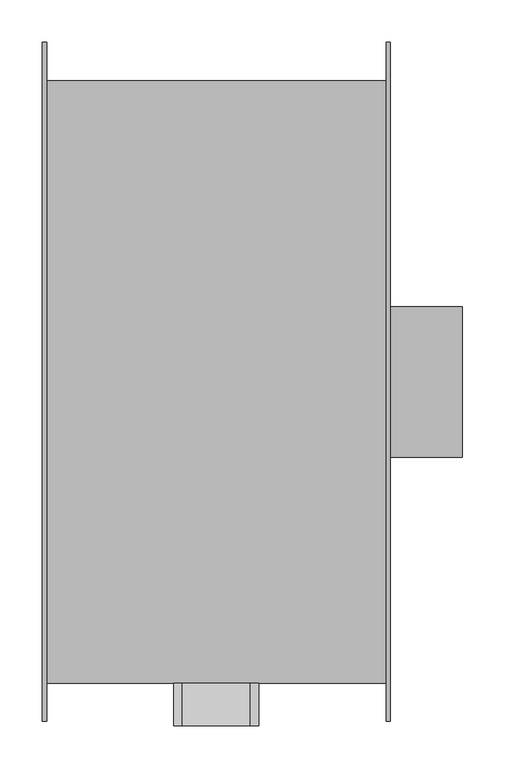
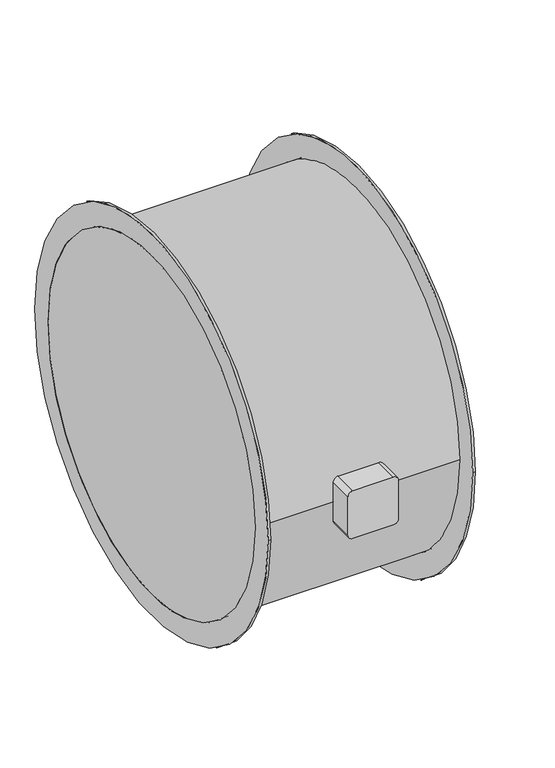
"""IFC4 building model written with IfcOpenShell, lengths in millimetres: unitary equipment geometry, VE-Wentylator-ParaForma-Harmann-AXER-Nawiewny : 710/4/20500T."""

from ifc_helpers import new_model, si_unit, point, frame, frame_2d, origin, origin_2d, place, context, project, spatial, polyline, circle_curve, trimmed, segment, composite_curve, outline, extrude, source, transform, mapped, element, save


def unitary_equipment_40dfa68d(model_context):
    return source(origin(), model_context, "Body", "SweptSolid", [
        extrude(outline(composite_curve([segment(trimmed(circle_curve(origin_2d(), 88.75), [point((-88.75, 0.0))], [point((88.75, 0.0))], False, "CARTESIAN"), True, "CONTINUOUS"), segment(trimmed(circle_curve(origin_2d(), 88.75), [point((88.75, 0.0))], [point((-88.75, 0.0))], False, "CARTESIAN"), True, "CONTINUOUS")], self_intersect=False)), frame((205.0, 0.0, 0.0), z_axis=(1.0, 0.0, 0.0), x_axis=(0.0, 1.0, 0.0)), (0.0, 0.0, 1.0), 85.0),
        extrude(outline(composite_curve([segment(trimmed(circle_curve(frame_2d((-40.0, 40.0)), 10.0), [point((-50.0, 40.0))], [point((-40.0, 50.0))], False, "CARTESIAN"), True, "CONTINUOUS"), segment(polyline([(-40.0, 50.0), (40.0, 50.0)]), True, "CONTINUOUS"), segment(trimmed(circle_curve(frame_2d((40.0, 40.0)), 10.0), [point((40.0, 50.0))], [point((50.0, 40.0))], False, "CARTESIAN"), True, "CONTINUOUS"), segment(polyline([(50.0, 40.0), (50.0, -40.0)]), True, "CONTINUOUS"), segment(trimmed(circle_curve(frame_2d((40.0, -40.0)), 10.0), [point((50.0, -40.0))], [point((40.0, -50.0))], False, "CARTESIAN"), True, "CONTINUOUS"), segment(polyline([(40.0, -50.0), (-40.0, -50.0)]), True, "CONTINUOUS"), segment(trimmed(circle_curve(frame_2d((-40.0, -40.0)), 10.0), [point((-40.0, -50.0))], [point((-50.0, -40.0))], False, "CARTESIAN"), True, "CONTINUOUS"), segment(polyline([(-50.0, -40.0), (-50.0, 40.0)]), True, "CONTINUOUS")], self_intersect=False)), frame((0.0, -405.0, 0.0), z_axis=(0.0, 1.0, 0.0), x_axis=(0.0, 0.0, 1.0)), (0.0, 0.0, 1.0), 50.0),
        extrude(outline(composite_curve([segment(trimmed(circle_curve(origin_2d(), 400.0), [point((-400.0, 0.0))], [point((400.0, 0.0))], False, "CARTESIAN"), True, "CONTINUOUS"), segment(trimmed(circle_curve(origin_2d(), 400.0), [point((400.0, 0.0))], [point((-400.0, 0.0))], False, "CARTESIAN"), True, "CONTINUOUS")], self_intersect=False), holes=[composite_curve([segment(trimmed(circle_curve(origin_2d(), 355.0), [point((-355.0, 0.0))], [point((355.0, 0.0))], True, "CARTESIAN"), True, "CONTINUOUS"), segment(trimmed(circle_curve(origin_2d(), 355.0), [point((355.0, 0.0))], [point((-355.0, 0.0))], True, "CARTESIAN"), True, "CONTINUOUS")], self_intersect=False)]), frame((200.0, 0.0, 0.0), z_axis=(1.0, 0.0, 0.0), x_axis=(0.0, 1.0, 0.0)), (0.0, 0.0, 1.0), 5.0),
        extrude(outline(composite_curve([segment(trimmed(circle_curve(origin_2d(), 400.0), [point((-400.0, 0.0))], [point((400.0, 0.0))], False, "CARTESIAN"), True, "CONTINUOUS"), segment(trimmed(circle_curve(origin_2d(), 400.0), [point((400.0, 0.0))], [point((-400.0, 0.0))], False, "CARTESIAN"), True, "CONTINUOUS")], self_intersect=False), holes=[composite_curve([segment(trimmed(circle_curve(origin_2d(), 355.0), [point((-355.0, 0.0))], [point((355.0, 0.0))], True, "CARTESIAN"), True, "CONTINUOUS"), segment(trimmed(circle_curve(origin_2d(), 355.0), [point((355.0, 0.0))], [point((-355.0, 0.0))], True, "CARTESIAN"), True, "CONTINUOUS")], self_intersect=False)]), frame((-205.0, 0.0, 0.0), z_axis=(1.0, 0.0, 0.0), x_axis=(0.0, 1.0, 0.0)), (0.0, 0.0, 1.0), 5.0),
        extrude(outline(composite_curve([segment(trimmed(circle_curve(origin_2d(), 355.0), [point((-355.0, 0.0))], [point((355.0, 0.0))], False, "CARTESIAN"), True, "CONTINUOUS"), segment(trimmed(circle_curve(origin_2d(), 355.0), [point((355.0, 0.0))], [point((-355.0, 0.0))], False, "CARTESIAN"), True, "CONTINUOUS")], self_intersect=False)), frame((-205.0, 0.0, 0.0), z_axis=(1.0, 0.0, 0.0), x_axis=(0.0, 1.0, 0.0)), (0.0, 0.0, 1.0), 410.0),
    ])


if __name__ == "__main__":
    model = new_model("IFC4")
    model_context = context("Model", 3, world=origin())
    ifc_project = project(units=[si_unit("LENGTHUNIT", "METRE", prefix="MILLI")], contexts=[model_context])
    site = spatial("IfcSite", under=ifc_project)
    building = spatial("IfcBuilding", under=site)
    placement = place(None, origin())
    unitary_equipment_shape = unitary_equipment_40dfa68d(model_context)
    element("IfcUnitaryEquipment", 1, ObjectType="VE-Wentylator-ParaForma-Harmann-AXER-Nawiewny : 710/4/20500T", at=placement, inside=building, context=model_context, shape_type="MappedRepresentation", body=[
        mapped(unitary_equipment_shape, transform((0.0, 0.0, 0.0), x_axis=(1.0, 0.0, 0.0), y_axis=(0.0, 1.0, 0.0), z_axis=(0.0, 0.0, 1.0))),
    ])
    save(model, "model.ifc")
